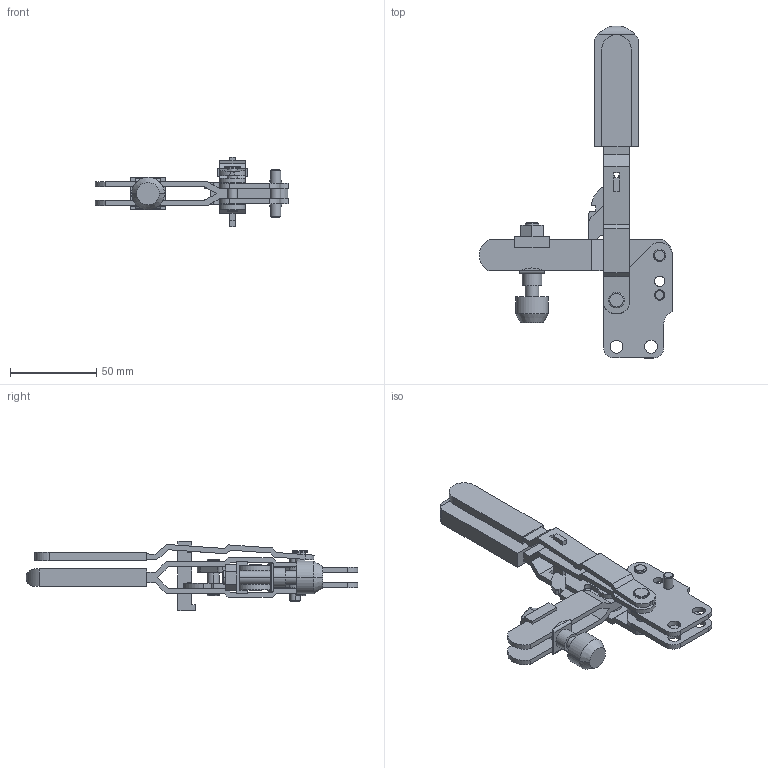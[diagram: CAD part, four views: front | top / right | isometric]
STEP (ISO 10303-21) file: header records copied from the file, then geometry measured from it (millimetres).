
FILE_DESCRIPTION( ( '' ), '1' );
FILE_NAME( '//partserver002.servicenet/client_exchange/iodir/jobs/output/wkb5782835_no0/STEP/v250_1blc_2_14a.stp', '2006-11-29T10:48:51', ( '' ), ( '' ), ' ', ' ', ' ' );
FILE_SCHEMA( ( 'automotive_design' ) );
Length unit declared in the file: millimetre
Products named in the file (9): 1; 2; 3; 4; 5; 6; 7; 8; 9
Bounding box: 111.96 x 192.53 x 40.3 mm (x, y, z)
Volume: 75332.3 mm3; surface area: 46946.4 mm2
Topology: 9 solids, 9 shells, 348 faces, 886 edges, 574 vertices
Faces by surface type: plane 206, cylinder 98, cone 28, torus 16
Entity records: 20846 total; most frequent: CARTESIAN_POINT 1929, DIRECTION 1824, STYLED_ITEM 1817, PRESENTATION_STYLE_ASSIGNMENT 1817, COLOUR_RGB 1817, ORIENTED_EDGE 1772, EDGE_CURVE 886, CURVE_STYLE 886
